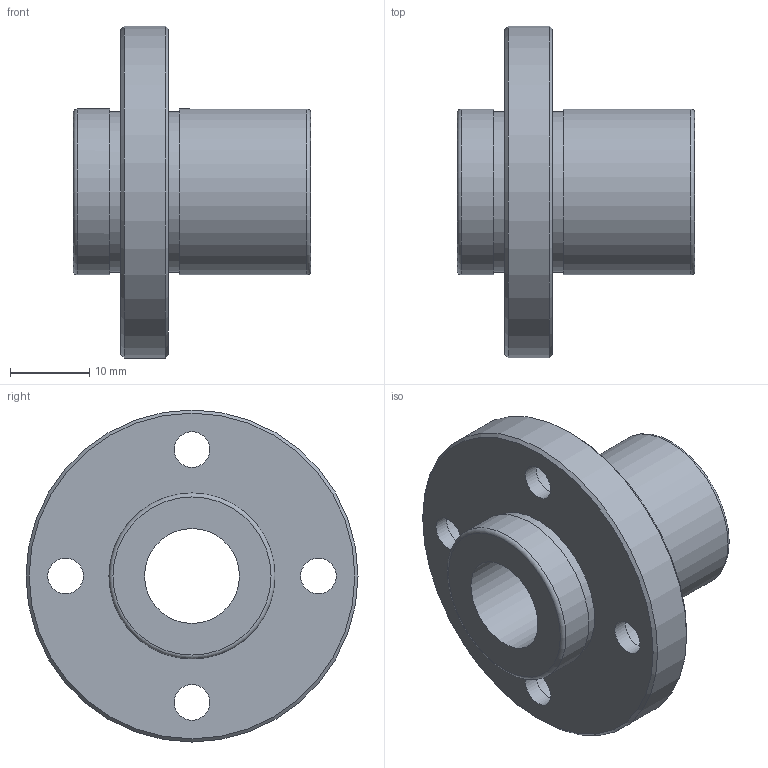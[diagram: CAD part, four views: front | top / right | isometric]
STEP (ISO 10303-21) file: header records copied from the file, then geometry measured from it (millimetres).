
FILE_DESCRIPTION(('STEP AP203'),'1');
FILE_NAME('//192.168.1.1/share/s-4 技術開発/s-4-4_CAD/s-4-4-3_見直し済み/002 修正済み/NFID-V/NFID-V_TOP/NFID-12VUU.step','2022-03-08T02:19:30',(' '),(' '),'Spatial InterOp 3D',' ',' ');
FILE_SCHEMA(('CONFIG_CONTROL_DESIGN'));
Length unit declared in the file: millimetre
Products named in the file (1): 1
Bounding box: 30 x 42 x 42 mm (x, y, z)
Volume: 12295.4 mm3; surface area: 6411.2 mm2
Topology: 1 solids, 1 shells, 28 faces, 58 edges, 40 vertices
Faces by surface type: cylinder 14, plane 10, torus 2, cone 2
Full cylindrical faces by diameter (mm): 4.5 x4, 7.5 x4, 12 x1, 20.3 x2, 21 x2, 42 x1
Entity records: 668 total; most frequent: DIRECTION 122, CARTESIAN_POINT 93, EDGE_LOOP 64, ORIENTED_EDGE 64, AXIS2_PLACEMENT_3D 61, FACE_OUTER_BOUND 44, EDGE_CURVE 32, VERTEX_POINT 32
